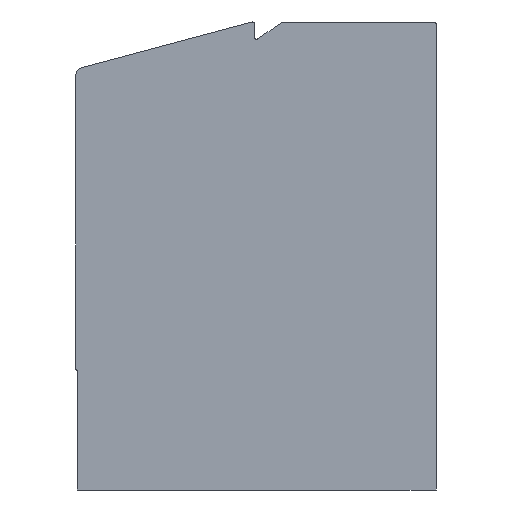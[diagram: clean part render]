
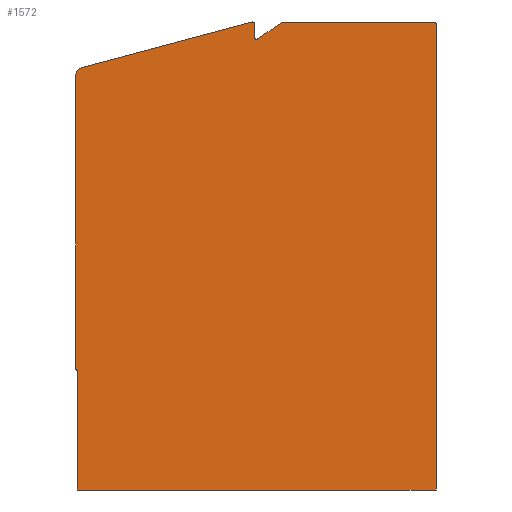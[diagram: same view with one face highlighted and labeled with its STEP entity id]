
A CAD part, left-side view. The second image highlights one B-rep face of the part: STEP entity #1572.
In plain terms, the highlighted planar face has unit normal (-1, 0, 0) as drawn and (0, 0, -1) by its records, which use the part's own axes.
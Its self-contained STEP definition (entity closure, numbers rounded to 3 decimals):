
#46 = CARTESIAN_POINT ( 'NONE',  ( -408.982, 1049.432, -1262.5 ) ) ;
#120 = EDGE_CURVE ( 'NONE', #2383, #6371, #1614, .T. ) ;
#182 = CARTESIAN_POINT ( 'NONE',  ( -999.967, 1546.019, -1262.5 ) ) ;
#244 = EDGE_CURVE ( 'NONE', #4564, #1146, #7643, .T. ) ;
#298 = CARTESIAN_POINT ( 'NONE',  ( -1042.786, 1303.432, -1262.5 ) ) ;
#346 = ORIENTED_EDGE ( 'NONE', *, *, #6985, .F. ) ;
#403 = DIRECTION ( 'NONE',  ( 1., 0., 0. ) ) ;
#490 = VERTEX_POINT ( 'NONE', #6633 ) ;
#522 = EDGE_CURVE ( 'NONE', #2811, #1700, #3698, .T. ) ;
#533 = LINE ( 'NONE', #4602, #5815 ) ;
#538 = DIRECTION ( 'NONE',  ( 0., 1., 0. ) ) ;
#759 = ORIENTED_EDGE ( 'NONE', *, *, #7127, .F. ) ;
#920 = ORIENTED_EDGE ( 'NONE', *, *, #7314, .F. ) ;
#928 = EDGE_CURVE ( 'NONE', #2605, #2811, #533, .T. ) ;
#929 = VECTOR ( 'NONE', #5180, 1000. ) ;
#1096 = CARTESIAN_POINT ( 'NONE',  ( -575.982, 1551.432, -1262.5 ) ) ;
#1146 = VERTEX_POINT ( 'NONE', #4566 ) ;
#1148 = LINE ( 'NONE', #3921, #4333 ) ;
#1176 = CARTESIAN_POINT ( 'NONE',  ( -990.307, 1543.432, -1262.5 ) ) ;
#1274 = CARTESIAN_POINT ( 'NONE',  ( -577.982, 1551.432, -1262.5 ) ) ;
#1360 = AXIS2_PLACEMENT_3D ( 'NONE', #4127, #5067, #4139 ) ;
#1430 = VECTOR ( 'NONE', #5718, 1000. ) ;
#1572 = ADVANCED_FACE ( 'NONE', ( #7856 ), #7353, .T. ) ;
#1614 = LINE ( 'NONE', #2591, #6872 ) ;
#1642 = EDGE_CURVE ( 'NONE', #4550, #5208, #2034, .T. ) ;
#1643 = ORIENTED_EDGE ( 'NONE', *, *, #4637, .F. ) ;
#1679 = ORIENTED_EDGE ( 'NONE', *, *, #6386, .F. ) ;
#1700 = VERTEX_POINT ( 'NONE', #6338 ) ;
#1830 = DIRECTION ( 'NONE',  ( -1., 0., 0. ) ) ;
#1883 = CIRCLE ( 'NONE', #2957, 2. ) ;
#2034 = LINE ( 'NONE', #5250, #1430 ) ;
#2078 = VERTEX_POINT ( 'NONE', #5900 ) ;
#2383 = VERTEX_POINT ( 'NONE', #46 ) ;
#2433 = CARTESIAN_POINT ( 'NONE',  ( -1061.982, 1051.432, -1262.5 ) ) ;
#2521 = ORIENTED_EDGE ( 'NONE', *, *, #928, .F. ) ;
#2571 = AXIS2_PLACEMENT_3D ( 'NONE', #2592, #7242, #4064 ) ;
#2591 = CARTESIAN_POINT ( 'NONE',  ( -408.982, 1551.432, -1262.5 ) ) ;
#2592 = CARTESIAN_POINT ( 'NONE',  ( -1061.015, 1306.432, -1262.5 ) ) ;
#2605 = VERTEX_POINT ( 'NONE', #3111 ) ;
#2765 = CARTESIAN_POINT ( 'NONE',  ( -577.982, 1553.432, -1262.5 ) ) ;
#2811 = VERTEX_POINT ( 'NONE', #298 ) ;
#2936 = CIRCLE ( 'NONE', #5132, 3. ) ;
#2957 = AXIS2_PLACEMENT_3D ( 'NONE', #1274, #4369, #6530 ) ;
#2994 = ORIENTED_EDGE ( 'NONE', *, *, #8000, .F. ) ;
#3111 = CARTESIAN_POINT ( 'NONE',  ( -1061.015, 1303.432, -1262.5 ) ) ;
#3234 = CARTESIAN_POINT ( 'NONE',  ( -1063.982, 1264.932, -1262.5 ) ) ;
#3236 = CARTESIAN_POINT ( 'NONE',  ( -408.982, 1551.432, -1262.5 ) ) ;
#3309 = DIRECTION ( 'NONE',  ( -1., 0., 0. ) ) ;
#3373 = VECTOR ( 'NONE', #3309, 1000. ) ;
#3600 = CARTESIAN_POINT ( 'NONE',  ( -1040.329, 1298.712, -1262.5 ) ) ;
#3676 = LINE ( 'NONE', #2765, #3373 ) ;
#3683 = DIRECTION ( 'NONE',  ( -1., 0., 0. ) ) ;
#3698 = CIRCLE ( 'NONE', #1360, 3. ) ;
#3730 = ORIENTED_EDGE ( 'NONE', *, *, #522, .F. ) ;
#3854 = ORIENTED_EDGE ( 'NONE', *, *, #1642, .F. ) ;
#3921 = CARTESIAN_POINT ( 'NONE',  ( -1061.982, 1049.432, -1262.5 ) ) ;
#3986 = CIRCLE ( 'NONE', #5044, 10. ) ;
#4058 = EDGE_CURVE ( 'NONE', #5208, #2605, #4850, .T. ) ;
#4064 = DIRECTION ( 'NONE',  ( -1., 0., 0. ) ) ;
#4127 = CARTESIAN_POINT ( 'NONE',  ( -1042.786, 1300.432, -1262.5 ) ) ;
#4128 = ORIENTED_EDGE ( 'NONE', *, *, #4428, .F. ) ;
#4139 = DIRECTION ( 'NONE',  ( -1., 0., 0. ) ) ;
#4333 = VECTOR ( 'NONE', #403, 1000. ) ;
#4363 = CARTESIAN_POINT ( 'NONE',  ( -1063.982, 1264.932, -1262.5 ) ) ;
#4369 = DIRECTION ( 'NONE',  ( 0., 0., 1. ) ) ;
#4428 = EDGE_CURVE ( 'NONE', #6371, #6826, #5969, .T. ) ;
#4472 = VECTOR ( 'NONE', #6946, 1000. ) ;
#4550 = VERTEX_POINT ( 'NONE', #182 ) ;
#4564 = VERTEX_POINT ( 'NONE', #4363 ) ;
#4566 = CARTESIAN_POINT ( 'NONE',  ( -1063.982, 1051.432, -1262.5 ) ) ;
#4602 = CARTESIAN_POINT ( 'NONE',  ( -1061.015, 1303.432, -1262.5 ) ) ;
#4637 = EDGE_CURVE ( 'NONE', #7913, #7376, #3676, .T. ) ;
#4672 = CARTESIAN_POINT ( 'NONE',  ( -577.982, 1553.432, -1262.5 ) ) ;
#4725 = CARTESIAN_POINT ( 'NONE',  ( -1042.786, 1300.432, -1262.5 ) ) ;
#4820 = AXIS2_PLACEMENT_3D ( 'NONE', #2433, #6407, #3683 ) ;
#4826 = ORIENTED_EDGE ( 'NONE', *, *, #4919, .F. ) ;
#4850 = CIRCLE ( 'NONE', #2571, 3. ) ;
#4894 = ORIENTED_EDGE ( 'NONE', *, *, #244, .F. ) ;
#4919 = EDGE_CURVE ( 'NONE', #490, #2383, #1148, .T. ) ;
#4982 = DIRECTION ( 'NONE',  ( 1., 0., 0. ) ) ;
#5044 = AXIS2_PLACEMENT_3D ( 'NONE', #1176, #5623, #1830 ) ;
#5067 = DIRECTION ( 'NONE',  ( 0., 0., -1. ) ) ;
#5132 = AXIS2_PLACEMENT_3D ( 'NONE', #4725, #5545, #6902 ) ;
#5180 = DIRECTION ( 'NONE',  ( 0., -1., 0. ) ) ;
#5208 = VERTEX_POINT ( 'NONE', #7466 ) ;
#5250 = CARTESIAN_POINT ( 'NONE',  ( -999.967, 1546.019, -1262.5 ) ) ;
#5342 = LINE ( 'NONE', #3600, #7025 ) ;
#5468 = DIRECTION ( 'NONE',  ( -0.574, -0.819, 0. ) ) ;
#5545 = DIRECTION ( 'NONE',  ( 0., 0., -1. ) ) ;
#5623 = DIRECTION ( 'NONE',  ( 0., 0., 1. ) ) ;
#5718 = DIRECTION ( 'NONE',  ( -0.259, -0.966, 0. ) ) ;
#5815 = VECTOR ( 'NONE', #4982, 1000. ) ;
#5900 = CARTESIAN_POINT ( 'NONE',  ( -1040.329, 1298.712, -1262.5 ) ) ;
#5969 = LINE ( 'NONE', #3236, #4472 ) ;
#6171 = ORIENTED_EDGE ( 'NONE', *, *, #120, .F. ) ;
#6338 = CARTESIAN_POINT ( 'NONE',  ( -1039.786, 1300.432, -1262.5 ) ) ;
#6339 = CIRCLE ( 'NONE', #4820, 2. ) ;
#6371 = VERTEX_POINT ( 'NONE', #8068 ) ;
#6386 = EDGE_CURVE ( 'NONE', #1700, #2078, #2936, .T. ) ;
#6407 = DIRECTION ( 'NONE',  ( 0., 0., 1. ) ) ;
#6518 = EDGE_LOOP ( 'NONE', ( #759, #4128, #6171, #4826, #346, #4894, #920, #1679, #3730, #2521, #6654, #3854, #2994, #1643 ) ) ;
#6530 = DIRECTION ( 'NONE',  ( -1., 0., 0. ) ) ;
#6633 = CARTESIAN_POINT ( 'NONE',  ( -1061.982, 1049.432, -1262.5 ) ) ;
#6654 = ORIENTED_EDGE ( 'NONE', *, *, #4058, .F. ) ;
#6826 = VERTEX_POINT ( 'NONE', #1096 ) ;
#6872 = VECTOR ( 'NONE', #538, 1000. ) ;
#6902 = DIRECTION ( 'NONE',  ( -1., 0., 0. ) ) ;
#6946 = DIRECTION ( 'NONE',  ( -1., 0., 0. ) ) ;
#6985 = EDGE_CURVE ( 'NONE', #1146, #490, #6339, .T. ) ;
#7025 = VECTOR ( 'NONE', #5468, 1000. ) ;
#7127 = EDGE_CURVE ( 'NONE', #6826, #7913, #1883, .T. ) ;
#7242 = DIRECTION ( 'NONE',  ( 0., 0., 1. ) ) ;
#7314 = EDGE_CURVE ( 'NONE', #2078, #4564, #5342, .T. ) ;
#7323 = DIRECTION ( 'NONE',  ( -1., 0., 0. ) ) ;
#7353 = PLANE ( 'NONE',  #7360 ) ;
#7360 = AXIS2_PLACEMENT_3D ( 'NONE', #7912, #7796, #7323 ) ;
#7376 = VERTEX_POINT ( 'NONE', #7971 ) ;
#7466 = CARTESIAN_POINT ( 'NONE',  ( -1063.912, 1307.208, -1262.5 ) ) ;
#7643 = LINE ( 'NONE', #3234, #929 ) ;
#7796 = DIRECTION ( 'NONE',  ( 0., 0., -1. ) ) ;
#7856 = FACE_OUTER_BOUND ( 'NONE', #6518, .T. ) ;
#7912 = CARTESIAN_POINT ( 'NONE',  ( -1061.015, 1306.432, -1262.5 ) ) ;
#7913 = VERTEX_POINT ( 'NONE', #4672 ) ;
#7971 = CARTESIAN_POINT ( 'NONE',  ( -990.307, 1553.432, -1262.5 ) ) ;
#8000 = EDGE_CURVE ( 'NONE', #7376, #4550, #3986, .T. ) ;
#8068 = CARTESIAN_POINT ( 'NONE',  ( -408.982, 1551.432, -1262.5 ) ) ;
